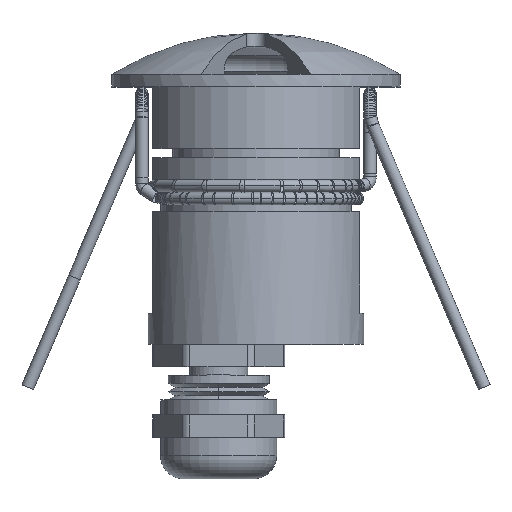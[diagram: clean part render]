
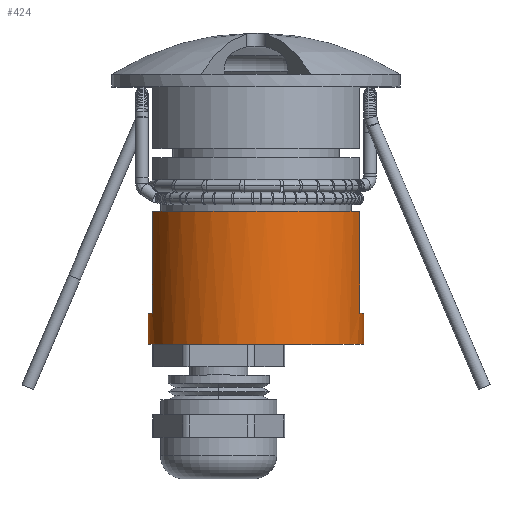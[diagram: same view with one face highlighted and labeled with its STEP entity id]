
A CAD part, top view. The second image highlights one B-rep face of the part: STEP entity #424.
In plain terms, the highlighted cylindrical face has radius 13 mm (diameter 26 mm), a partial arc.
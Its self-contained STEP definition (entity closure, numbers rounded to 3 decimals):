
#6=CARTESIAN_POINT('',(0.,0.,0.));
#7=DIRECTION('',(0.,1.,0.));
#8=DIRECTION('',(-1.,0.,0.));
#9=AXIS2_PLACEMENT_3D('',#6,#7,#8);
#44=DIRECTION('',(0.,1.,0.));
#45=VECTOR('',#44,3.75);
#46=CARTESIAN_POINT('',(13.,0.,0.));
#47=LINE('',#46,#45);
#84=CARTESIAN_POINT('',(0.,3.75,0.));
#85=DIRECTION('',(0.,-1.,0.));
#86=DIRECTION('',(-0.962,0.,0.275));
#87=AXIS2_PLACEMENT_3D('',#84,#85,#86);
#89=DIRECTION('',(0.,1.,0.));
#90=VECTOR('',#89,12.25);
#91=CARTESIAN_POINT('',(-12.5,3.75,3.571));
#92=LINE('',#91,#90);
#93=CARTESIAN_POINT('',(0.,16.,0.));
#94=DIRECTION('',(0.,1.,0.));
#95=DIRECTION('',(-0.962,0.,0.275));
#96=AXIS2_PLACEMENT_3D('',#93,#94,#95);
#98=DIRECTION('',(0.,1.,0.));
#99=VECTOR('',#98,12.25);
#100=CARTESIAN_POINT('',(12.5,3.75,3.571));
#101=LINE('',#100,#99);
#102=CARTESIAN_POINT('',(0.,3.75,0.));
#103=DIRECTION('',(0.,-1.,0.));
#104=DIRECTION('',(1.,0.,0.));
#105=AXIS2_PLACEMENT_3D('',#102,#103,#104);
#107=DIRECTION('',(0.,1.,0.));
#108=VECTOR('',#107,3.75);
#109=CARTESIAN_POINT('',(-13.,0.,0.));
#110=LINE('',#109,#108);
#255=CARTESIAN_POINT('',(13.,0.,0.));
#256=CARTESIAN_POINT('',(-13.,0.,0.));
#257=VERTEX_POINT('',#255);
#258=VERTEX_POINT('',#256);
#288=CARTESIAN_POINT('',(13.,3.75,0.));
#290=VERTEX_POINT('',#288);
#291=CARTESIAN_POINT('',(-13.,3.75,0.));
#293=VERTEX_POINT('',#291);
#307=CARTESIAN_POINT('',(-12.5,3.75,3.571));
#308=VERTEX_POINT('',#307);
#309=CARTESIAN_POINT('',(12.5,3.75,3.571));
#310=VERTEX_POINT('',#309);
#311=CARTESIAN_POINT('',(12.5,16.,3.571));
#312=VERTEX_POINT('',#311);
#317=CARTESIAN_POINT('',(-12.5,16.,3.571));
#318=VERTEX_POINT('',#317);
#404=CARTESIAN_POINT('',(0.,0.,0.));
#405=DIRECTION('',(0.,1.,0.));
#406=DIRECTION('',(1.,0.,0.));
#407=AXIS2_PLACEMENT_3D('',#404,#405,#406);
#408=CYLINDRICAL_SURFACE('',#407,13.);
#410=ORIENTED_EDGE('',*,*,#409,.F.);
#412=ORIENTED_EDGE('',*,*,#411,.T.);
#414=ORIENTED_EDGE('',*,*,#413,.T.);
#416=ORIENTED_EDGE('',*,*,#415,.F.);
#418=ORIENTED_EDGE('',*,*,#417,.F.);
#419=ORIENTED_EDGE('',*,*,#367,.F.);
#420=ORIENTED_EDGE('',*,*,#338,.F.);
#421=ORIENTED_EDGE('',*,*,#364,.T.);
#422=EDGE_LOOP('',(#410,#412,#414,#416,#418,#419,#420,#421));
#423=FACE_OUTER_BOUND('',#422,.F.);
#424=ADVANCED_FACE('',(#423),#408,.T.);
#10=CIRCLE('',#9,13.);
#88=CIRCLE('',#87,13.);
#97=CIRCLE('',#96,13.);
#106=CIRCLE('',#105,13.);
#338=EDGE_CURVE('',#258,#257,#10,.T.);
#364=EDGE_CURVE('',#258,#293,#110,.T.);
#367=EDGE_CURVE('',#257,#290,#47,.T.);
#409=EDGE_CURVE('',#308,#293,#88,.T.);
#411=EDGE_CURVE('',#308,#318,#92,.T.);
#413=EDGE_CURVE('',#318,#312,#97,.T.);
#415=EDGE_CURVE('',#310,#312,#101,.T.);
#417=EDGE_CURVE('',#290,#310,#106,.T.);
